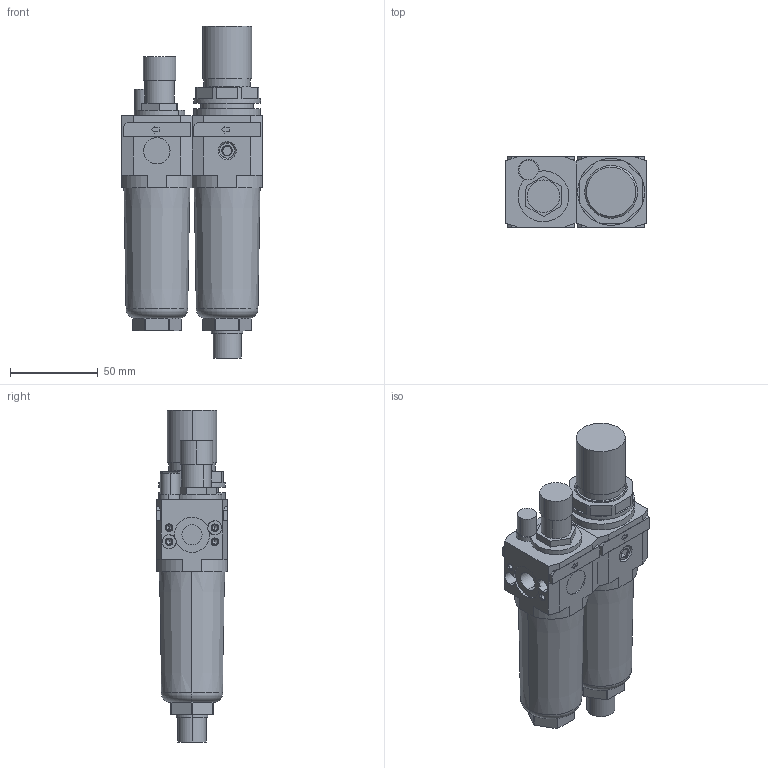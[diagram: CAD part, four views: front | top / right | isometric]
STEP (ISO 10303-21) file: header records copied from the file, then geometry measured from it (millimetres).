
FILE_DESCRIPTION((''),'2;1');
FILE_NAME('I:\DOC-EDP\Lib-3d\FRL\17106B_P.stp','2003-06-16T14:49:38',('maffial1'),(''),'Autodesk Inventor 7','Autodesk Inventor 7','');
FILE_SCHEMA(('AUTOMOTIVE_DESIGN { 1 0 10303 214 1 1 1 1 }'));
Length unit declared in the file: millimetre
Products named in the file (6): 17106B_P; 17104B_P; 17104A_P(1); RS_1701_12; RK_1701_020; 17103B_P
Assembly tree (5 placements, depth 3):
  17106B_P
    17104B_P
      17104A_P(1)
      RS_1701_12
      RK_1701_020
    17103B_P
Bounding box: 80 x 40 x 189 mm (x, y, z)
Volume: 326353.3 mm3; surface area: 58633 mm2
Topology: 4 solids, 8 shells, 410 faces, 995 edges, 623 vertices
Faces by surface type: plane 145, bspline 111, cylinder 102, cone 44, torus 8
Entity records: 12813 total; most frequent: CARTESIAN_POINT 3328, ORIENTED_EDGE 1934, DIRECTION 1910, EDGE_CURVE 967, AXIS2_PLACEMENT_3D 657, VERTEX_POINT 623, VECTOR 596, LINE 596
